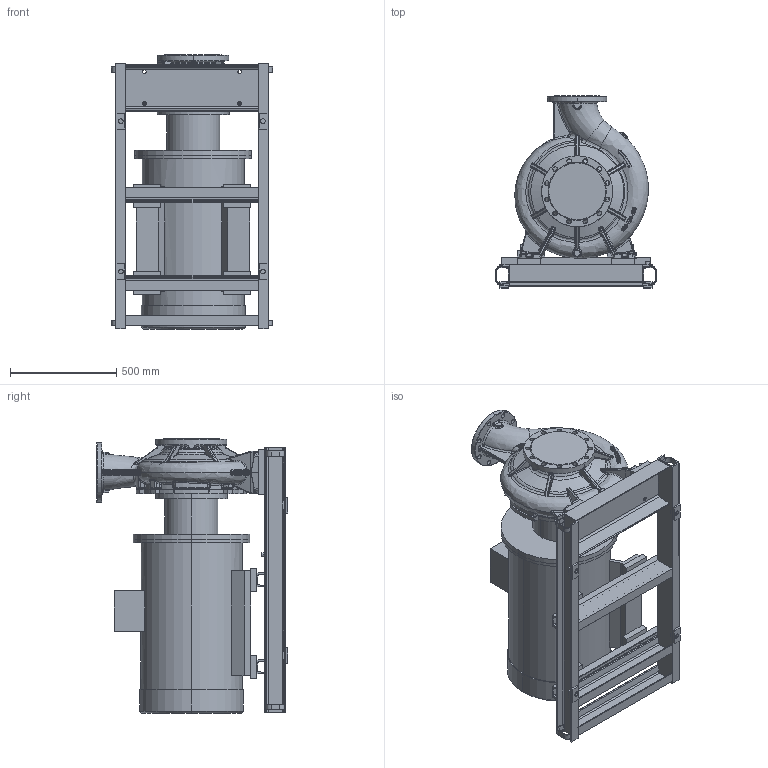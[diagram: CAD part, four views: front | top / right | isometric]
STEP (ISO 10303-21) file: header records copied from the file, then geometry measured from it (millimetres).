
FILE_DESCRIPTION (( 'STEP AP203' ), '1' );
FILE_NAME ('KRM 200-150-400-4-90.STEP', '2026-05-06T11:33:23', ( '' ), ( '' ), 'SwSTEP 2.0', 'SolidWorks 2016', '' );
FILE_SCHEMA (( 'CONFIG_CONTROL_DESIGN' ));
Length unit declared in the file: millimetre
Products named in the file (1): KRM 200-150-400-4-90
Bounding box: 759.61 x 905 x 1295.8 mm (x, y, z)
Volume: 243533932 mm3; surface area: 7678018 mm2
Topology: 31 solids, 31 shells, 1713 faces, 4288 edges, 2605 vertices
Faces by surface type: bspline 607, plane 476, cylinder 395, torus 108, cone 101, sphere 26
Entity records: 111347 total; most frequent: CARTESIAN_POINT 75332, ORIENTED_EDGE 8468, DIRECTION 6190, EDGE_CURVE 4234, VERTEX_POINT 2605, AXIS2_PLACEMENT_3D 2410, EDGE_LOOP 1837, ADVANCED_FACE 1713
